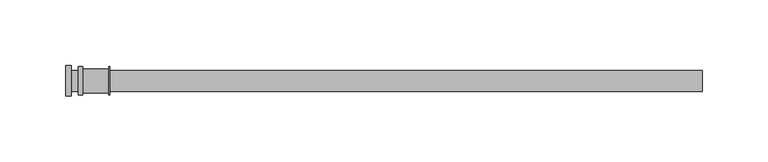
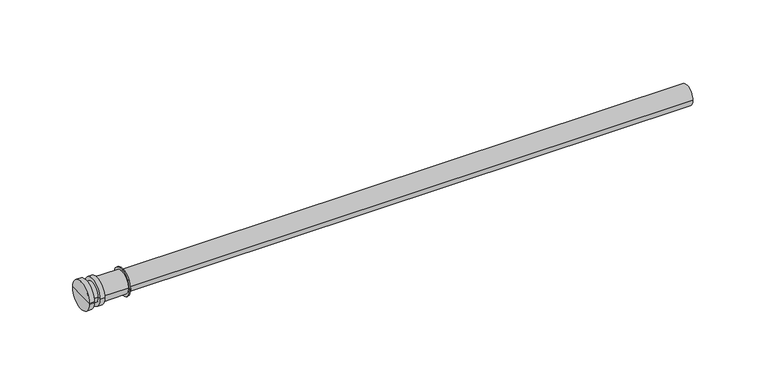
"""IFC4 building model written with IfcOpenShell, lengths in millimetres: pipe fitting geometry, KAN-therm Push element połaczeniowy do grzejnika : KAN-therm Push element połaczeniowy do grzejnika."""

from ifc_helpers import new_model, si_unit, frame, origin, place, context, project, spatial, circle_curve, source, transform, mapped, element, save
from ifc_brep_helpers import plane_surface, cylinder_surface, advanced_brep


def pipe_fitting_16a170cd(model_context):
    return source(origin(), model_context, "Body", "AdvancedBrep", [
        advanced_brep(
        [(7.6, -10.8, 0.0), (7.6, 10.8, 0.0), (7.6, 0.0, 0.0), (4.1, -10.8, 0.0), (4.1, 10.8, 0.0), (4.1, 0.0, 0.0)],
        [
            (0, 1, circle_curve(frame((7.6, 0.0, 0.0), z_axis=(1.0, 0.0, 0.0), x_axis=(0.0, 1.0, 0.0)), 10.8)),
            (1, 2),
            (2, 0),
            (1, 0, circle_curve(frame((7.6, 0.0, 0.0), z_axis=(1.0, 0.0, 0.0), x_axis=(0.0, 1.0, 0.0)), 10.8)),
            (3, 4, circle_curve(frame((4.1, 0.0, 0.0), z_axis=(1.0, 0.0, 0.0), x_axis=(0.0, 1.0, 0.0)), 10.8)),
            (4, 1),
            (0, 3),
            (4, 3, circle_curve(frame((4.1, 0.0, 0.0), z_axis=(1.0, 0.0, 0.0), x_axis=(0.0, 1.0, 0.0)), 10.8)),
            (5, 4),
            (3, 5),
        ],
        [
            plane_surface(frame((7.6, 0.0, 0.0), z_axis=(1.0, 0.0, 0.0), x_axis=(0.0, 1.0, 0.0))),
            cylinder_surface(frame((2005.1, 0.0, 0.0), z_axis=(-1.0, 0.0, 0.0), x_axis=(0.0, 1.0, 0.0)), 10.8),
            plane_surface(frame((4.1, 0.0, 0.0), z_axis=(-1.0, 0.0, 0.0), x_axis=(0.0, 1.0, 0.0))),
        ],
        [
            (0, [[1, 2, 3]]),
            (0, [[4, -3, -2]]),
            (1, [[5, 6, -1, 7]]),
            (1, [[8, -7, -4, -6]]),
            (2, [[9, -5, 10]]),
            (2, [[-10, -8, -9]]),
        ],
    ),
        advanced_brep(
        [(28.1, -10.8, 0.0), (28.1, 10.8, 0.0), (28.1, 0.0, 0.0), (27.3, -10.8, 0.0), (27.3, 10.8, 0.0), (7.6, -9.0, 0.0), (7.6, 9.0, 0.0), (27.3, 9.0, 0.0), (27.3, -9.0, 0.0), (7.6, 0.0, 0.0)],
        [
            (0, 1, circle_curve(frame((28.1, 0.0, 0.0), z_axis=(1.0, 0.0, 0.0), x_axis=(0.0, 1.0, 0.0)), 10.8)),
            (1, 2),
            (2, 0),
            (1, 0, circle_curve(frame((28.1, 0.0, 0.0), z_axis=(1.0, 0.0, 0.0), x_axis=(0.0, 1.0, 0.0)), 10.8)),
            (3, 4, circle_curve(frame((27.3, 0.0, 0.0), z_axis=(1.0, 0.0, 0.0), x_axis=(0.0, 1.0, 0.0)), 10.8)),
            (4, 1),
            (0, 3),
            (4, 3, circle_curve(frame((27.3, 0.0, 0.0), z_axis=(1.0, 0.0, 0.0), x_axis=(0.0, 1.0, 0.0)), 10.8)),
            (5, 6, circle_curve(frame((7.6, 0.0, 0.0), z_axis=(1.0, 0.0, 0.0), x_axis=(0.0, 1.0, 0.0)), 9.0)),
            (6, 7),
            (7, 8, circle_curve(frame((27.3, 0.0, 0.0), z_axis=(-1.0, 0.0, 0.0), x_axis=(0.0, 1.0, 0.0)), 9.0)),
            (8, 5),
            (6, 5, circle_curve(frame((7.6, 0.0, 0.0), z_axis=(1.0, 0.0, 0.0), x_axis=(0.0, 1.0, 0.0)), 9.0)),
            (8, 7, circle_curve(frame((27.3, 0.0, 0.0), z_axis=(-1.0, 0.0, 0.0), x_axis=(0.0, 1.0, 0.0)), 9.0)),
            (9, 6),
            (5, 9),
            (7, 4),
            (3, 8),
        ],
        [
            plane_surface(frame((28.1, 0.0, 0.0), z_axis=(1.0, 0.0, 0.0), x_axis=(0.0, 1.0, 0.0))),
            cylinder_surface(frame((2005.1, 0.0, 0.0), z_axis=(-1.0, 0.0, 0.0), x_axis=(0.0, 1.0, 0.0)), 10.8),
            cylinder_surface(frame((2005.1, 0.0, 0.0), z_axis=(-1.0, 0.0, 0.0), x_axis=(0.0, 1.0, 0.0)), 9.0),
            plane_surface(frame((7.6, 0.0, 0.0), z_axis=(-1.0, 0.0, 0.0), x_axis=(0.0, 1.0, 0.0))),
            plane_surface(frame((27.3, 0.0, 0.0), z_axis=(-1.0, 0.0, 0.0), x_axis=(0.0, 1.0, 0.0))),
        ],
        [
            (0, [[1, 2, 3]]),
            (0, [[4, -3, -2]]),
            (1, [[5, 6, -1, 7]]),
            (1, [[8, -7, -4, -6]]),
            (2, [[9, 10, 11, 12]]),
            (2, [[13, -12, 14, -10]]),
            (3, [[15, -9, 16]]),
            (3, [[-16, -13, -15]]),
            (4, [[-11, 17, -5, 18]]),
            (4, [[-14, -18, -8, -17]]),
        ],
    ),
        advanced_brep(
        [(476.9, -8.0, 0.0), (476.9, 8.0, 0.0), (476.9, 0.0, 0.0), (28.1, -8.0, 0.0), (28.1, 8.0, 0.0), (28.1, 0.0, 0.0)],
        [
            (0, 1, circle_curve(frame((476.9, 0.0, 0.0), z_axis=(1.0, 0.0, 0.0), x_axis=(0.0, 1.0, 0.0)), 8.0)),
            (1, 2),
            (2, 0),
            (1, 0, circle_curve(frame((476.9, 0.0, 0.0), z_axis=(1.0, 0.0, 0.0), x_axis=(0.0, 1.0, 0.0)), 8.0)),
            (3, 4, circle_curve(frame((28.1, 0.0, 0.0), z_axis=(1.0, 0.0, 0.0), x_axis=(0.0, 1.0, 0.0)), 8.0)),
            (4, 1),
            (0, 3),
            (4, 3, circle_curve(frame((28.1, 0.0, 0.0), z_axis=(1.0, 0.0, 0.0), x_axis=(0.0, 1.0, 0.0)), 8.0)),
            (5, 4),
            (3, 5),
        ],
        [
            plane_surface(frame((476.9, 0.0, 0.0), z_axis=(1.0, 0.0, 0.0), x_axis=(0.0, 1.0, 0.0))),
            cylinder_surface(frame((2000.0, 0.0, 0.0), z_axis=(-1.0, 0.0, 0.0), x_axis=(0.0, 1.0, 0.0)), 8.0),
            plane_surface(frame((28.1, 0.0, 0.0), z_axis=(-1.0, 0.0, 0.0), x_axis=(0.0, 1.0, 0.0))),
        ],
        [
            (0, [[1, 2, 3]]),
            (0, [[4, -3, -2]]),
            (1, [[5, 6, -1, 7]]),
            (1, [[8, -7, -4, -6]]),
            (2, [[9, -5, 10]]),
            (2, [[-10, -8, -9]]),
        ],
    ),
        advanced_brep(
        [(5.1, -8.0, 0.0), (5.1, 8.0, 0.0), (5.1, 0.0, 0.0), (-1.1, -8.0, 0.0), (-1.1, 8.0, 0.0), (-5.1, 0.0, 0.0), (-5.1, 11.5, 0.0), (-5.1, -11.5, 0.0), (-1.1, -11.5, 0.0), (-1.1, 11.5, 0.0)],
        [
            (0, 1, circle_curve(frame((5.1, 0.0, 0.0), z_axis=(1.0, 0.0, 0.0), x_axis=(0.0, 1.0, 0.0)), 8.0)),
            (1, 2),
            (2, 0),
            (1, 0, circle_curve(frame((5.1, 0.0, 0.0), z_axis=(1.0, 0.0, 0.0), x_axis=(0.0, 1.0, 0.0)), 8.0)),
            (3, 4, circle_curve(frame((-1.1, 0.0, 0.0), z_axis=(1.0, 0.0, 0.0), x_axis=(0.0, 1.0, 0.0)), 8.0)),
            (4, 1),
            (0, 3),
            (4, 3, circle_curve(frame((-1.1, 0.0, 0.0), z_axis=(1.0, 0.0, 0.0), x_axis=(0.0, 1.0, 0.0)), 8.0)),
            (5, 6),
            (6, 7, circle_curve(frame((-5.1, 0.0, 0.0), z_axis=(-1.0, 0.0, 0.0), x_axis=(0.0, 1.0, 0.0)), 11.5)),
            (7, 5),
            (7, 6, circle_curve(frame((-5.1, 0.0, 0.0), z_axis=(-1.0, 0.0, 0.0), x_axis=(0.0, 1.0, 0.0)), 11.5)),
            (8, 9, circle_curve(frame((-1.1, 0.0, 0.0), z_axis=(1.0, 0.0, 0.0), x_axis=(0.0, 1.0, 0.0)), 11.5)),
            (9, 4),
            (3, 8),
            (9, 8, circle_curve(frame((-1.1, 0.0, 0.0), z_axis=(1.0, 0.0, 0.0), x_axis=(0.0, 1.0, 0.0)), 11.5)),
            (6, 9),
            (8, 7),
        ],
        [
            plane_surface(frame((5.1, 0.0, 0.0), z_axis=(1.0, 0.0, 0.0), x_axis=(0.0, 1.0, 0.0))),
            cylinder_surface(frame((1987.1, 0.0, 0.0), z_axis=(-1.0, 0.0, 0.0), x_axis=(0.0, 1.0, 0.0)), 8.0),
            plane_surface(frame((-5.1, 0.0, 0.0), z_axis=(-1.0, 0.0, 0.0), x_axis=(0.0, 1.0, 0.0))),
            plane_surface(frame((-1.1, 0.0, 0.0), z_axis=(1.0, 0.0, 0.0), x_axis=(0.0, 1.0, 0.0))),
            cylinder_surface(frame((1987.1, 0.0, 0.0), z_axis=(-1.0, 0.0, 0.0), x_axis=(0.0, 1.0, 0.0)), 11.5),
        ],
        [
            (0, [[1, 2, 3]]),
            (0, [[4, -3, -2]]),
            (1, [[5, 6, -1, 7]]),
            (1, [[8, -7, -4, -6]]),
            (2, [[9, 10, 11]]),
            (2, [[-11, 12, -9]]),
            (3, [[13, 14, -5, 15]]),
            (3, [[16, -15, -8, -14]]),
            (4, [[-10, 17, -13, 18]]),
            (4, [[-12, -18, -16, -17]]),
        ],
    ),
    ])


if __name__ == "__main__":
    model = new_model("IFC4")
    model_context = context("Model", 3, world=origin())
    ifc_project = project(units=[si_unit("LENGTHUNIT", "METRE", prefix="MILLI")], contexts=[model_context])
    site = spatial("IfcSite", under=ifc_project)
    building = spatial("IfcBuilding", under=site)
    placement = place(None, origin())
    pipe_fitting_shape = pipe_fitting_16a170cd(model_context)
    element("IfcPipeFitting", 1, ObjectType="KAN-therm Push element połaczeniowy do grzejnika : KAN-therm Push element połaczeniowy do grzejnika", at=placement, inside=building, context=model_context, shape_type="MappedRepresentation", body=[
        mapped(pipe_fitting_shape, transform((0.0, 0.0, 0.0), x_axis=(1.0, 0.0, 0.0), y_axis=(0.0, 1.0, 0.0), z_axis=(0.0, 0.0, 1.0))),
    ])
    save(model, "model.ifc")
